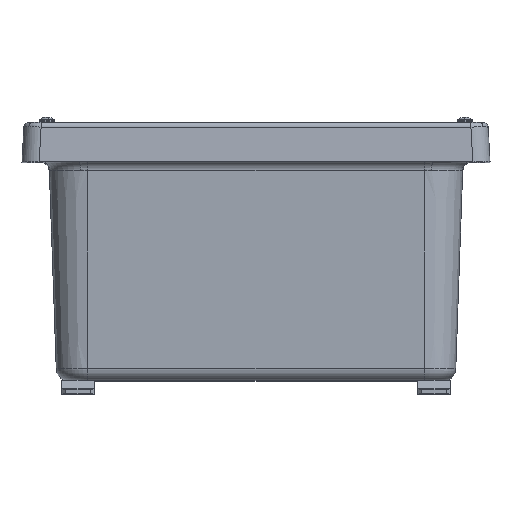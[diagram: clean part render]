
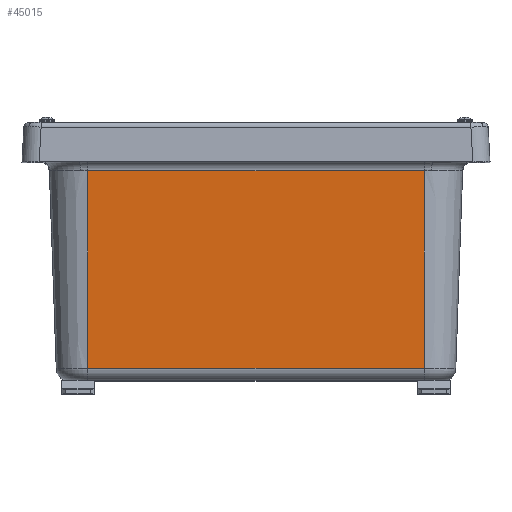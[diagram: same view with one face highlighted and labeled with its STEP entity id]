
A CAD part, top view. The second image highlights one B-rep face of the part: STEP entity #45015.
In plain terms, the highlighted planar face has unit normal (0, -0.035, 0.999).
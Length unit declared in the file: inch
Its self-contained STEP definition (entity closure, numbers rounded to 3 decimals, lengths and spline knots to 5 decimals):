
#77 = CARTESIAN_POINT ( 'NONE',  ( -4.261, -0.81856, 6.17042 ) ) ;
#848 = ORIENTED_EDGE ( 'NONE', *, *, #13638, .F. ) ;
#942 = CARTESIAN_POINT ( 'NONE',  ( 4.261, 0., 6.199 ) ) ;
#2450 = VECTOR ( 'NONE', #23653, 39.37008 ) ;
#3180 = CARTESIAN_POINT ( 'NONE',  ( -4.261, -5.82341, 5.99564 ) ) ;
#4191 = DIRECTION ( 'NONE',  ( -1., 0., 0. ) ) ;
#6465 = LINE ( 'NONE', #77, #38385 ) ;
#8897 = CARTESIAN_POINT ( 'NONE',  ( 4.261, -5.82341, 5.99564 ) ) ;
#9514 = ORIENTED_EDGE ( 'NONE', *, *, #33480, .T. ) ;
#13638 = EDGE_CURVE ( 'NONE', #54593, #17290, #60325, .T. ) ;
#14964 = EDGE_CURVE ( 'NONE', #20392, #42122, #18932, .T. ) ;
#15007 = FACE_OUTER_BOUND ( 'NONE', #16642, .T. ) ;
#16642 = EDGE_LOOP ( 'NONE', ( #63843, #9514, #848, #60690 ) ) ;
#17290 = VERTEX_POINT ( 'NONE', #22431 ) ;
#18432 = CARTESIAN_POINT ( 'NONE',  ( -4.261, 0., 6.199 ) ) ;
#18647 = DIRECTION ( 'NONE',  ( 0., 0.999, 0.035 ) ) ;
#18932 = LINE ( 'NONE', #942, #37574 ) ;
#20392 = VERTEX_POINT ( 'NONE', #8897 ) ;
#20977 = DIRECTION ( 'NONE',  ( 0., 0.999, 0.035 ) ) ;
#22431 = CARTESIAN_POINT ( 'NONE',  ( -4.261, -0.81856, 6.17042 ) ) ;
#23653 = DIRECTION ( 'NONE',  ( 1., 0., 0. ) ) ;
#28355 = CARTESIAN_POINT ( 'NONE',  ( -4.261, 0., 6.199 ) ) ;
#29454 = DIRECTION ( 'NONE',  ( 0., -0.999, -0.035 ) ) ;
#30323 = CARTESIAN_POINT ( 'NONE',  ( -4.261, -5.82341, 5.99564 ) ) ;
#33480 = EDGE_CURVE ( 'NONE', #42122, #17290, #6465, .T. ) ;
#33802 = VECTOR ( 'NONE', #18647, 39.37008 ) ;
#37574 = VECTOR ( 'NONE', #20977, 39.37008 ) ;
#38385 = VECTOR ( 'NONE', #4191, 39.37008 ) ;
#42122 = VERTEX_POINT ( 'NONE', #51107 ) ;
#45015 = ADVANCED_FACE ( 'NONE', ( #15007 ), #58162, .T. ) ;
#45284 = EDGE_CURVE ( 'NONE', #54593, #20392, #47662, .T. ) ;
#47662 = LINE ( 'NONE', #3180, #2450 ) ;
#49286 = DIRECTION ( 'NONE',  ( 0., -0.035, 0.999 ) ) ;
#51107 = CARTESIAN_POINT ( 'NONE',  ( 4.261, -0.81856, 6.17042 ) ) ;
#54593 = VERTEX_POINT ( 'NONE', #30323 ) ;
#58162 = PLANE ( 'NONE',  #61358 ) ;
#60325 = LINE ( 'NONE', #18432, #33802 ) ;
#60690 = ORIENTED_EDGE ( 'NONE', *, *, #45284, .T. ) ;
#61358 = AXIS2_PLACEMENT_3D ( 'NONE', #28355, #49286, #29454 ) ;
#63843 = ORIENTED_EDGE ( 'NONE', *, *, #14964, .T. ) ;
